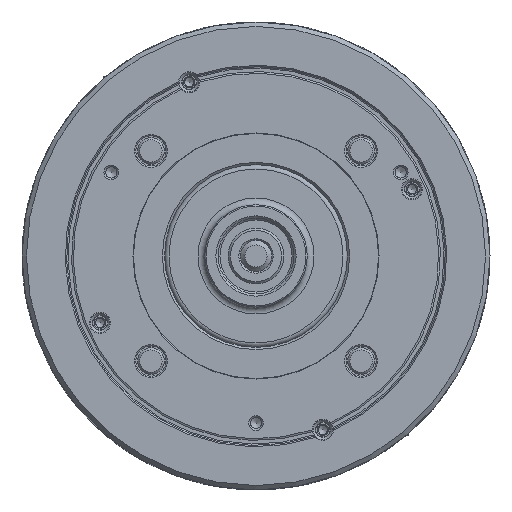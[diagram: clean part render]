
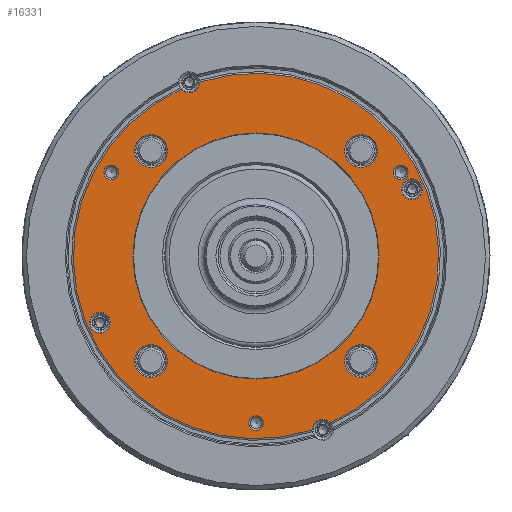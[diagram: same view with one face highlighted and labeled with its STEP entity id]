
A CAD part, left-side view. The second image highlights one B-rep face of the part: STEP entity #16331.
In plain terms, the highlighted planar face has unit normal (-1, 0, 0).
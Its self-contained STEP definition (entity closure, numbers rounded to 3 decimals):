
#603 = VERTEX_POINT ( 'NONE', #6565 ) ;
#990 = FACE_BOUND ( 'NONE', #49549, .T. ) ;
#1357 = EDGE_CURVE ( 'NONE', #54903, #54903, #97009, .T. ) ;
#1528 = DIRECTION ( 'NONE',  ( 1., 0., 0. ) ) ;
#2606 = DIRECTION ( 'NONE',  ( -1., 0., 0. ) ) ;
#3752 = AXIS2_PLACEMENT_3D ( 'NONE', #21163, #103190, #85515 ) ;
#4505 = ORIENTED_EDGE ( 'NONE', *, *, #68033, .T. ) ;
#4610 = CARTESIAN_POINT ( 'NONE',  ( -86., 0., 0. ) ) ;
#6431 = ORIENTED_EDGE ( 'NONE', *, *, #20038, .T. ) ;
#6565 = CARTESIAN_POINT ( 'NONE',  ( -86., -68.252, 37.5 ) ) ;
#7215 = CIRCLE ( 'NONE', #3752, 4.75 ) ;
#7917 = DIRECTION ( 'NONE',  ( 1., 0., 0. ) ) ;
#8015 = CARTESIAN_POINT ( 'NONE',  ( -86., 0., -82. ) ) ;
#8412 = ORIENTED_EDGE ( 'NONE', *, *, #43739, .T. ) ;
#9581 = DIRECTION ( 'NONE',  ( 0., 1., 0. ) ) ;
#10144 = CARTESIAN_POINT ( 'NONE',  ( -86., 70., -30. ) ) ;
#10667 = CARTESIAN_POINT ( 'NONE',  ( -86., 64.952, 37.5 ) ) ;
#11622 = ORIENTED_EDGE ( 'NONE', *, *, #77258, .T. ) ;
#11725 = DIRECTION ( 'NONE',  ( 1., 0., 0. ) ) ;
#13182 = EDGE_CURVE ( 'NONE', #66100, #66100, #40683, .T. ) ;
#13535 = ORIENTED_EDGE ( 'NONE', *, *, #14795, .T. ) ;
#13612 = DIRECTION ( 'NONE',  ( 1., 0., 0. ) ) ;
#13862 = ORIENTED_EDGE ( 'NONE', *, *, #30966, .F. ) ;
#14795 = EDGE_CURVE ( 'NONE', #33856, #94421, #7215, .T. ) ;
#14956 = DIRECTION ( 'NONE',  ( 0., 1., 0. ) ) ;
#15325 = CIRCLE ( 'NONE', #70011, 3.3 ) ;
#16331 = ADVANCED_FACE ( 'NONE', ( #33133, #58861, #90510, #49227, #990, #17075, #24584, #17606, #64811, #89474, #16544 ), #65840, .F. ) ;
#16544 = FACE_BOUND ( 'NONE', #55251, .T. ) ;
#16787 = AXIS2_PLACEMENT_3D ( 'NONE', #87892, #79321, #70201 ) ;
#17075 = FACE_BOUND ( 'NONE', #67744, .T. ) ;
#17606 = FACE_BOUND ( 'NONE', #92308, .T. ) ;
#18748 = DIRECTION ( 'NONE',  ( -1., 0., 0. ) ) ;
#20038 = EDGE_CURVE ( 'NONE', #73107, #73107, #26775, .T. ) ;
#20236 = CARTESIAN_POINT ( 'NONE',  ( -86., -33.536, -74.829 ) ) ;
#21163 = CARTESIAN_POINT ( 'NONE',  ( -86., 30., 78. ) ) ;
#22462 = AXIS2_PLACEMENT_3D ( 'NONE', #8015, #1528, #9581 ) ;
#23675 = CARTESIAN_POINT ( 'NONE',  ( -86., 55.2, 0. ) ) ;
#24529 = EDGE_LOOP ( 'NONE', ( #43850 ) ) ;
#24584 = FACE_BOUND ( 'NONE', #64844, .T. ) ;
#25452 = DIRECTION ( 'NONE',  ( 0., 1., 0. ) ) ;
#25560 = EDGE_LOOP ( 'NONE', ( #63338 ) ) ;
#25976 = DIRECTION ( 'NONE',  ( 1., 0., 0. ) ) ;
#26423 = ORIENTED_EDGE ( 'NONE', *, *, #79836, .F. ) ;
#26775 = CIRCLE ( 'NONE', #66197, 7.35 ) ;
#27113 = CIRCLE ( 'NONE', #75046, 3.3 ) ;
#28632 = CIRCLE ( 'NONE', #45701, 4.75 ) ;
#29528 = VERTEX_POINT ( 'NONE', #20236 ) ;
#29877 = CIRCLE ( 'NONE', #86369, 4.75 ) ;
#30966 = EDGE_CURVE ( 'NONE', #86915, #94421, #35200, .T. ) ;
#31462 = CARTESIAN_POINT ( 'NONE',  ( -86., -47.164, 47.164 ) ) ;
#33133 = FACE_BOUND ( 'NONE', #25560, .T. ) ;
#33856 = VERTEX_POINT ( 'NONE', #83687 ) ;
#34324 = VERTEX_POINT ( 'NONE', #58466 ) ;
#35200 = CIRCLE ( 'NONE', #36892, 82. ) ;
#36778 = ORIENTED_EDGE ( 'NONE', *, *, #88804, .F. ) ;
#36892 = AXIS2_PLACEMENT_3D ( 'NONE', #4610, #52819, #85543 ) ;
#37355 = CIRCLE ( 'NONE', #16787, 55.2 ) ;
#39048 = CARTESIAN_POINT ( 'NONE',  ( -86., -70., 30. ) ) ;
#39523 = DIRECTION ( 'NONE',  ( 1., 0., 0. ) ) ;
#39752 = ORIENTED_EDGE ( 'NONE', *, *, #66888, .T. ) ;
#40683 = CIRCLE ( 'NONE', #103990, 4.75 ) ;
#43739 = EDGE_CURVE ( 'NONE', #85907, #85907, #83258, .T. ) ;
#43816 = AXIS2_PLACEMENT_3D ( 'NONE', #64186, #39523, #88874 ) ;
#43850 = ORIENTED_EDGE ( 'NONE', *, *, #13182, .T. ) ;
#45207 = DIRECTION ( 'NONE',  ( 0., 1., 0. ) ) ;
#45701 = AXIS2_PLACEMENT_3D ( 'NONE', #59491, #99188, #84153 ) ;
#47793 = CARTESIAN_POINT ( 'NONE',  ( -86., -39.814, -47.164 ) ) ;
#49227 = FACE_BOUND ( 'NONE', #102317, .T. ) ;
#49549 = EDGE_LOOP ( 'NONE', ( #55808 ) ) ;
#50010 = CARTESIAN_POINT ( 'NONE',  ( -86., 54.514, 47.164 ) ) ;
#50418 = CARTESIAN_POINT ( 'NONE',  ( -86., 74.75, -30. ) ) ;
#51441 = DIRECTION ( 'NONE',  ( 0., -1., 0. ) ) ;
#51958 = CARTESIAN_POINT ( 'NONE',  ( -86., 0., -75. ) ) ;
#52575 = ORIENTED_EDGE ( 'NONE', *, *, #63818, .T. ) ;
#52819 = DIRECTION ( 'NONE',  ( 1., 0., 0. ) ) ;
#53309 = CARTESIAN_POINT ( 'NONE',  ( -86., -3.3, -75. ) ) ;
#54606 = CARTESIAN_POINT ( 'NONE',  ( -86., 33.536, 74.829 ) ) ;
#54712 = DIRECTION ( 'NONE',  ( 1., 0., 0. ) ) ;
#54851 = CARTESIAN_POINT ( 'NONE',  ( -86., 0., 0. ) ) ;
#54903 = VERTEX_POINT ( 'NONE', #53309 ) ;
#55251 = EDGE_LOOP ( 'NONE', ( #4505 ) ) ;
#55808 = ORIENTED_EDGE ( 'NONE', *, *, #58190, .F. ) ;
#56480 = CARTESIAN_POINT ( 'NONE',  ( -86., -65.25, 30. ) ) ;
#57144 = AXIS2_PLACEMENT_3D ( 'NONE', #54851, #13612, #45207 ) ;
#57336 = CIRCLE ( 'NONE', #79635, 7.35 ) ;
#58190 = EDGE_CURVE ( 'NONE', #603, #603, #15325, .T. ) ;
#58466 = CARTESIAN_POINT ( 'NONE',  ( -86., -39.814, 47.164 ) ) ;
#58861 = FACE_BOUND ( 'NONE', #24529, .T. ) ;
#58889 = DIRECTION ( 'NONE',  ( 0., -1., 0. ) ) ;
#59491 = CARTESIAN_POINT ( 'NONE',  ( -86., -30., -78. ) ) ;
#60467 = CARTESIAN_POINT ( 'NONE',  ( -86., -64.952, 37.5 ) ) ;
#62267 = CIRCLE ( 'NONE', #57144, 82. ) ;
#63338 = ORIENTED_EDGE ( 'NONE', *, *, #77024, .T. ) ;
#63710 = DIRECTION ( 'NONE',  ( 1., 0., 0. ) ) ;
#63809 = CARTESIAN_POINT ( 'NONE',  ( -86., 47.164, 47.164 ) ) ;
#63818 = EDGE_CURVE ( 'NONE', #88562, #88562, #57336, .T. ) ;
#64186 = CARTESIAN_POINT ( 'NONE',  ( -86., 47.164, -47.164 ) ) ;
#64439 = EDGE_LOOP ( 'NONE', ( #26423, #13535, #13862, #39752 ) ) ;
#64811 = FACE_BOUND ( 'NONE', #76617, .T. ) ;
#64844 = EDGE_LOOP ( 'NONE', ( #8412 ) ) ;
#65840 = PLANE ( 'NONE',  #22462 ) ;
#65892 = AXIS2_PLACEMENT_3D ( 'NONE', #51958, #18748, #51441 ) ;
#66100 = VERTEX_POINT ( 'NONE', #56480 ) ;
#66197 = AXIS2_PLACEMENT_3D ( 'NONE', #63809, #54712, #88508 ) ;
#66888 = EDGE_CURVE ( 'NONE', #86915, #29528, #28632, .T. ) ;
#67744 = EDGE_LOOP ( 'NONE', ( #6431 ) ) ;
#68033 = EDGE_CURVE ( 'NONE', #97136, #97136, #37355, .T. ) ;
#68214 = CARTESIAN_POINT ( 'NONE',  ( -86., -25.25, -78.016 ) ) ;
#69159 = EDGE_LOOP ( 'NONE', ( #103540 ) ) ;
#70011 = AXIS2_PLACEMENT_3D ( 'NONE', #60467, #99654, #58889 ) ;
#70201 = DIRECTION ( 'NONE',  ( 0., 1., 0. ) ) ;
#73107 = VERTEX_POINT ( 'NONE', #50010 ) ;
#75046 = AXIS2_PLACEMENT_3D ( 'NONE', #10667, #2606, #91058 ) ;
#76617 = EDGE_LOOP ( 'NONE', ( #11622 ) ) ;
#77024 = EDGE_CURVE ( 'NONE', #91176, #91176, #29877, .T. ) ;
#77258 = EDGE_CURVE ( 'NONE', #34324, #34324, #91492, .T. ) ;
#79321 = DIRECTION ( 'NONE',  ( 1., 0., 0. ) ) ;
#79635 = AXIS2_PLACEMENT_3D ( 'NONE', #82818, #25976, #25452 ) ;
#79836 = EDGE_CURVE ( 'NONE', #33856, #29528, #62267, .T. ) ;
#82818 = CARTESIAN_POINT ( 'NONE',  ( -86., -47.164, -47.164 ) ) ;
#83258 = CIRCLE ( 'NONE', #43816, 7.35 ) ;
#83687 = CARTESIAN_POINT ( 'NONE',  ( -86., 25.25, 78.016 ) ) ;
#84153 = DIRECTION ( 'NONE',  ( 0., 1., 0. ) ) ;
#85515 = DIRECTION ( 'NONE',  ( 0., 1., 0. ) ) ;
#85543 = DIRECTION ( 'NONE',  ( 0., 1., 0. ) ) ;
#85907 = VERTEX_POINT ( 'NONE', #94472 ) ;
#86369 = AXIS2_PLACEMENT_3D ( 'NONE', #10144, #11725, #92649 ) ;
#86915 = VERTEX_POINT ( 'NONE', #68214 ) ;
#87892 = CARTESIAN_POINT ( 'NONE',  ( -86., 0., 0. ) ) ;
#88508 = DIRECTION ( 'NONE',  ( 0., 1., 0. ) ) ;
#88562 = VERTEX_POINT ( 'NONE', #47793 ) ;
#88804 = EDGE_CURVE ( 'NONE', #100416, #100416, #27113, .T. ) ;
#88874 = DIRECTION ( 'NONE',  ( 0., 1., 0. ) ) ;
#89474 = FACE_OUTER_BOUND ( 'NONE', #64439, .T. ) ;
#90510 = FACE_BOUND ( 'NONE', #69159, .T. ) ;
#91058 = DIRECTION ( 'NONE',  ( 0., -1., 0. ) ) ;
#91176 = VERTEX_POINT ( 'NONE', #50418 ) ;
#91492 = CIRCLE ( 'NONE', #103518, 7.35 ) ;
#92308 = EDGE_LOOP ( 'NONE', ( #52575 ) ) ;
#92649 = DIRECTION ( 'NONE',  ( 0., 1., 0. ) ) ;
#93425 = CARTESIAN_POINT ( 'NONE',  ( -86., 61.652, 37.5 ) ) ;
#94421 = VERTEX_POINT ( 'NONE', #54606 ) ;
#94472 = CARTESIAN_POINT ( 'NONE',  ( -86., 54.514, -47.164 ) ) ;
#97009 = CIRCLE ( 'NONE', #65892, 3.3 ) ;
#97136 = VERTEX_POINT ( 'NONE', #23675 ) ;
#99188 = DIRECTION ( 'NONE',  ( 1., 0., 0. ) ) ;
#99654 = DIRECTION ( 'NONE',  ( -1., 0., 0. ) ) ;
#100416 = VERTEX_POINT ( 'NONE', #93425 ) ;
#102317 = EDGE_LOOP ( 'NONE', ( #36778 ) ) ;
#103190 = DIRECTION ( 'NONE',  ( 1., 0., 0. ) ) ;
#103518 = AXIS2_PLACEMENT_3D ( 'NONE', #31462, #7917, #105965 ) ;
#103540 = ORIENTED_EDGE ( 'NONE', *, *, #1357, .F. ) ;
#103990 = AXIS2_PLACEMENT_3D ( 'NONE', #39048, #63710, #14956 ) ;
#105965 = DIRECTION ( 'NONE',  ( 0., 1., 0. ) ) ;
